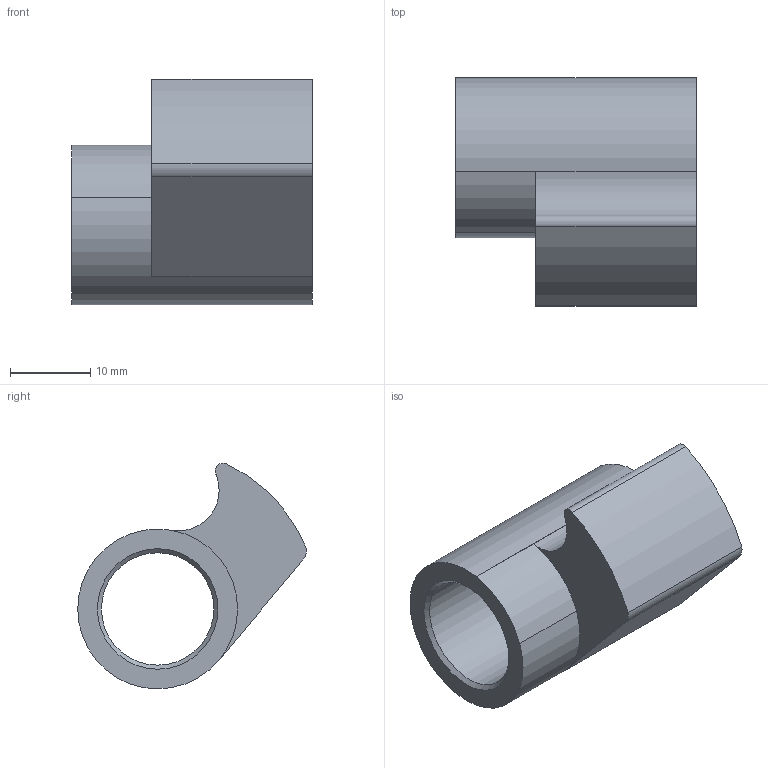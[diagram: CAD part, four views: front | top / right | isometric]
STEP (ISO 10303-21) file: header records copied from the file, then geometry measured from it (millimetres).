
FILE_DESCRIPTION(('HOOPS Exchange Step'),'2;1');
FILE_NAME('/private/var/mobile/Containers/Data/Application/E34E9B9D-13F5-4398-A6D4-3D2E6F602CF2/tmp/export/temp_export','2023-02-19T17:27:10-06:00',('mobile'),('Shapr3D Limited'),'HOOPS Exchange 2022.2','Shapr3D','Authorized');
FILE_SCHEMA( ('AUTOMOTIVE_DESIGN { 1 0 10303 214 1 1 1 1 }') );
Length unit declared in the file: millimetre
Products named in the file (1): Plug v2
Bounding box: 30 x 28.45 x 28.1 mm (x, y, z)
Volume: 7683.6 mm3; surface area: 4283.6 mm2
Topology: 1 solids, 1 shells, 15 faces, 39 edges, 26 vertices
Faces by surface type: cylinder 8, plane 5, cone 2
Full cylindrical faces by diameter (mm): 14 x1
Entity records: 503 total; most frequent: DIRECTION 93, CARTESIAN_POINT 81, ORIENTED_EDGE 78, EDGE_CURVE 39, AXIS2_PLACEMENT_3D 38, VERTEX_POINT 26, CIRCLE 22, EDGE_LOOP 17
